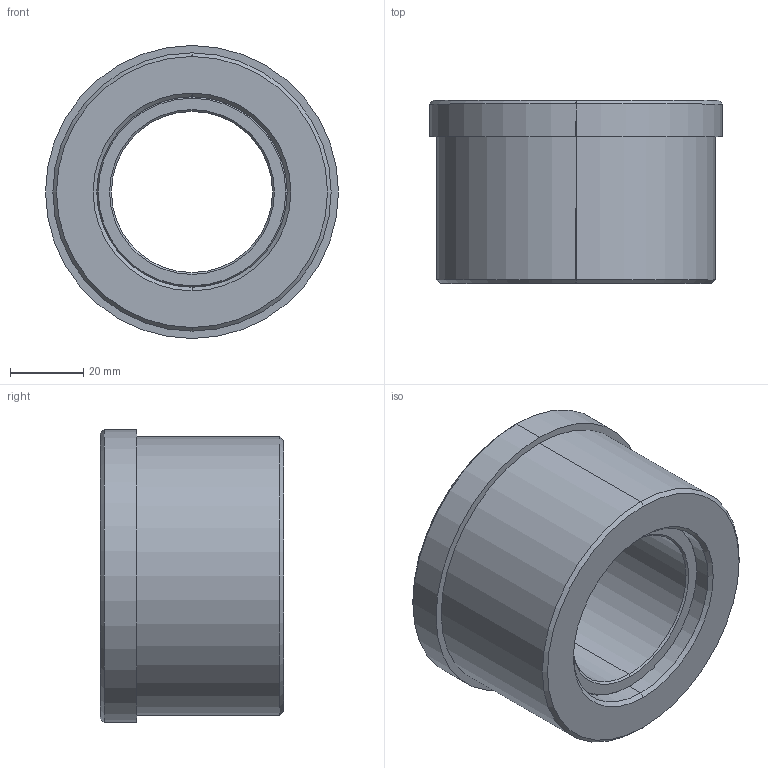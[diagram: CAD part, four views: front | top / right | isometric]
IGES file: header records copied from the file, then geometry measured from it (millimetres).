
Start section: 3D InterOp IGES (Version 20 0 1), Spatial Corp. Copyright (c) 1999-2007.
Global section: file name: 10.10.04.igs; native system: Spatial Corp.; preprocessor: 3D InterOp GENERIC/IGES 3.0; author: Noname; organization: Noname; date: 20111110.163732; units: metre
Bounding box: 80 x 50 x 80 mm (x, y, z)
Surface area: 41368.2 mm2 (no closed solid volume)
Topology: 0 solids, 0 shells, 57 faces, 678 edges, 1076 vertices
Faces by surface type: revolution 44, extrusion 13
